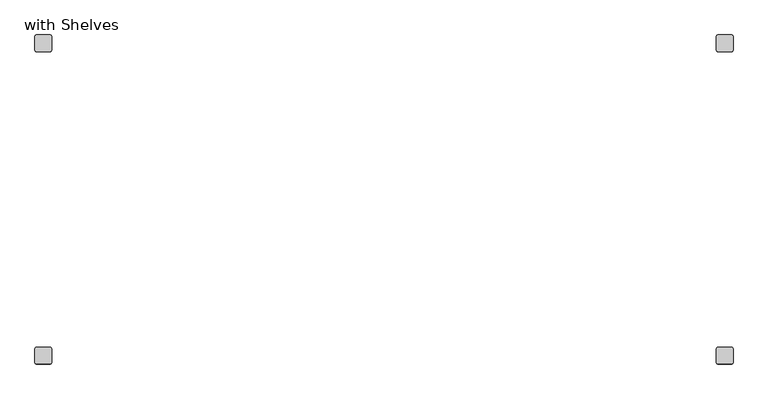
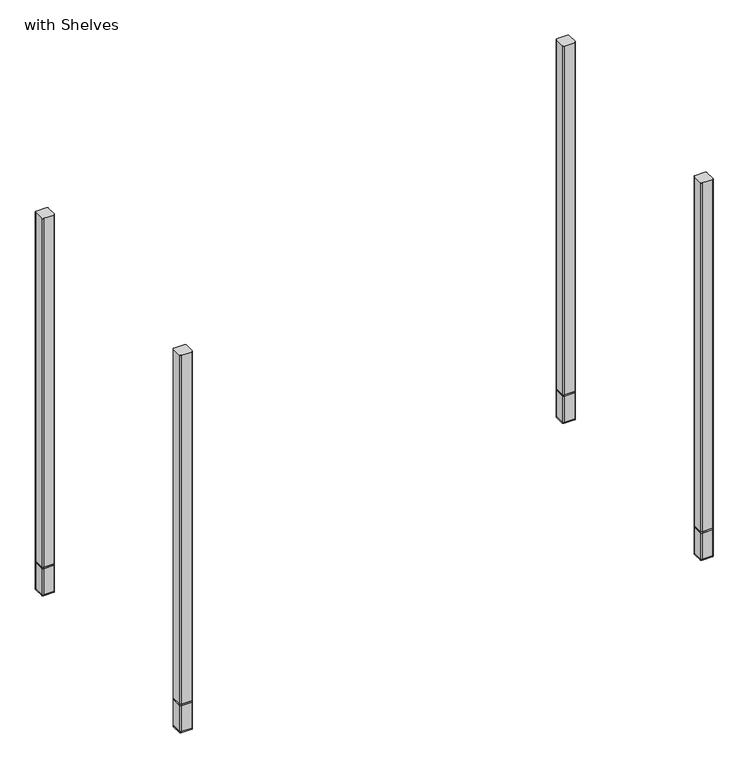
"""IFC4 building model written with IfcOpenShell, lengths in millimetres: furniture geometry, SmithSystem_AM_Storage_Education_Constellate_StandAlone_MidUnit : with Shelves."""

import ifcopenshell
import ifcopenshell.guid

model = None  # the IFC model being written
_history = None  # IfcOwnerHistory: only IFC2X3 demands one
_inside = {}  # id of a spatial element -> (the spatial element, [elements in it])
_under = {}  # id of a project, library or spatial element -> (it, [spatial elements below it])
_declared = {}  # id of a project -> (the project, [libraries it declares])
_typed = {}  # id of a type object -> (the type object, [elements of that type])
_made_of = {}  # id of a material, layer set ... -> (it, [elements and type objects made of it])


def new_model(schema):
    """Start an empty IFC model of exactly this schema.

    Asked for "IFC4X3", IfcOpenShell would pick the latest addendum, in which some entities
    have other attributes; the version numbers below select the first issue.
    IFC2X3 requires an IfcOwnerHistory on every rooted entity: one is made here for all.
    """
    global model, _history
    if schema == "IFC4X3":
        model = ifcopenshell.file(schema_version=(4, 3, 0, 0))
    else:
        model = ifcopenshell.file(schema=schema)
    _inside.clear()
    _under.clear()
    _declared.clear()
    _typed.clear()
    _made_of.clear()
    _history = None
    if model.schema == "IFC2X3":
        org = make("IfcOrganization", Name="unknown")
        user = make(
            "IfcPersonAndOrganization",
            ThePerson=make("IfcPerson", FamilyName="unknown"),
            TheOrganization=org,
        )
        app = make(
            "IfcApplication",
            ApplicationDeveloper=org,
            Version="unknown",
            ApplicationFullName="unknown",
            ApplicationIdentifier="unknown",
        )
        _history = make(
            "IfcOwnerHistory",
            OwningUser=user,
            OwningApplication=app,
            ChangeAction="ADDED",
            CreationDate=0,
        )
    return model


def make(cls, **values):
    """One entity of the class cls with the attributes given. An attribute that is None is left unset."""
    return model.create_entity(
        cls, **{name: value for name, value in values.items() if value is not None}
    )


def rooted(cls, **values):
    """An entity with a GlobalId (a new one), such as an element, a storey or a relation."""
    return make(cls, GlobalId=ifcopenshell.guid.new(), OwnerHistory=_history, **values)


def si_unit(unit_type, name, prefix=None):
    """IfcSIUnit, for example si_unit("LENGTHUNIT", "METRE", prefix="MILLI")."""
    return make("IfcSIUnit", UnitType=unit_type, Prefix=prefix, Name=name)


def assignment(units):
    """IfcUnitAssignment: the units of a project."""
    return None if units is None else make("IfcUnitAssignment", Units=units)


def point(xyz):
    """IfcCartesianPoint."""
    return None if xyz is None else make("IfcCartesianPoint", Coordinates=xyz)


def direction(xyz):
    """IfcDirection."""
    return None if xyz is None else make("IfcDirection", DirectionRatios=xyz)


def frame(location, z_axis=None, x_axis=None):
    """IfcAxis2Placement3D, a coordinate frame: its origin and axes. An axis left out is left unset."""
    return make(
        "IfcAxis2Placement3D",
        Location=point(location),
        Axis=direction(z_axis),
        RefDirection=direction(x_axis),
    )


def frame_2d(location, x_axis=None):
    """IfcAxis2Placement2D, a coordinate frame in the plane: its origin and x axis."""
    return make(
        "IfcAxis2Placement2D", Location=point(location), RefDirection=direction(x_axis)
    )


def origin():
    """The frame at (0, 0, 0) with its axes left unset."""
    return frame((0.0, 0.0, 0.0))


def origin_with_axes():
    """The frame at (0, 0, 0) with the z axis (0, 0, 1) and the x axis (1, 0, 0) written out."""
    return frame((0.0, 0.0, 0.0), z_axis=(0.0, 0.0, 1.0), x_axis=(1.0, 0.0, 0.0))


def place(relative_to, where):
    """IfcLocalPlacement: puts the frame where relative to a parent placement (None: the world)."""
    return make(
        "IfcLocalPlacement", PlacementRelTo=relative_to, RelativePlacement=where
    )


def context(
    kind, dimensions, precision=None, world=None, true_north=None, identifier=None
):
    """IfcGeometricRepresentationContext, for example the 3D "Model" context."""
    return make(
        "IfcGeometricRepresentationContext",
        ContextIdentifier=identifier,
        ContextType=kind,
        CoordinateSpaceDimension=dimensions,
        Precision=precision,
        WorldCoordinateSystem=world,
        TrueNorth=true_north,
    )


def project(units=None, contexts=None):
    """IfcProject with its units and contexts."""
    return rooted(
        "IfcProject",
        Name="project",
        RepresentationContexts=contexts,
        UnitsInContext=assignment(units),
    )


def spatial(cls, under=None, at=None, **own):
    """A site, building, storey or space (cls), placed at a placement, below another one or the project."""
    s = rooted(cls, ObjectPlacement=at, **own)
    if under is not None:
        _under.setdefault(under.id(), (under, []))[1].append(s)
    return s


def polyline(points):
    """IfcPolyline through the points."""
    return make("IfcPolyline", Points=[point(p) for p in points])


def circle_curve(where, radius):
    """IfcCircle in the frame where."""
    return make("IfcCircle", Position=where, Radius=radius)


def trimmed(basis, trim1, trim2, sense, master):
    """IfcTrimmedCurve: the piece of a basis curve between two trims."""
    return make(
        "IfcTrimmedCurve",
        BasisCurve=basis,
        Trim1=trim1,
        Trim2=trim2,
        SenseAgreement=sense,
        MasterRepresentation=master,
    )


def segment(curve, same_sense, transition):
    """IfcCompositeCurveSegment."""
    return make(
        "IfcCompositeCurveSegment",
        Transition=transition,
        SameSense=same_sense,
        ParentCurve=curve,
    )


def composite_curve(segments, self_intersect=None):
    """IfcCompositeCurve: segments joined end to end."""
    return make("IfcCompositeCurve", Segments=segments, SelfIntersect=self_intersect)


def outline(outer, holes=None, kind="AREA"):
    """IfcArbitraryClosedProfileDef: a profile drawn as a closed curve; with holes, ...WithVoids."""
    if holes is None:
        return make("IfcArbitraryClosedProfileDef", ProfileType=kind, OuterCurve=outer)
    return make(
        "IfcArbitraryProfileDefWithVoids",
        ProfileType=kind,
        OuterCurve=outer,
        InnerCurves=holes,
    )


def extrude(swept, where, along, depth):
    """IfcExtrudedAreaSolid: the profile swept, set in the frame where, extruded along a direction by depth."""
    return make(
        "IfcExtrudedAreaSolid",
        SweptArea=swept,
        Position=where,
        ExtrudedDirection=direction(along),
        Depth=depth,
    )


def shape(context_of_items, identifier, shape_type, items):
    """IfcShapeRepresentation: the items that make up one representation, for example the "Body"."""
    return make(
        "IfcShapeRepresentation",
        ContextOfItems=context_of_items,
        RepresentationIdentifier=identifier,
        RepresentationType=shape_type,
        Items=items,
    )


def source(mapping_origin, context_of_items, identifier, shape_type, items):
    """IfcRepresentationMap: a shape defined once, which mapped items show again and again."""
    return make(
        "IfcRepresentationMap",
        MappingOrigin=mapping_origin,
        MappedRepresentation=shape(context_of_items, identifier, shape_type, items),
    )


def transform(
    local_origin,
    x_axis=None,
    y_axis=None,
    z_axis=None,
    scale=None,
    scale2=None,
    scale3=None,
    uniform=True,
):
    """IfcCartesianTransformationOperator3D, or its non-uniform kind. x_axis, y_axis, z_axis: its Axis1, 2, 3."""
    if uniform:
        return make(
            "IfcCartesianTransformationOperator3D",
            Axis1=direction(x_axis),
            Axis2=direction(y_axis),
            LocalOrigin=point(local_origin),
            Scale=scale,
            Axis3=direction(z_axis),
        )
    return make(
        "IfcCartesianTransformationOperator3DnonUniform",
        Axis1=direction(x_axis),
        Axis2=direction(y_axis),
        LocalOrigin=point(local_origin),
        Scale=scale,
        Axis3=direction(z_axis),
        Scale2=scale2,
        Scale3=scale3,
    )


def mapped(mapping_source, mapping_target):
    """IfcMappedItem: shows the shape of a source again, moved by a transform."""
    return make(
        "IfcMappedItem", MappingSource=mapping_source, MappingTarget=mapping_target
    )


def made_of(thing, what):
    """Note that an element or type object is made of a material, layer set ...; save() writes the relation."""
    if what is not None:
        _made_of.setdefault(what.id(), (what, []))[1].append(thing)
    return thing


def element(
    cls,
    number,
    at=None,
    inside=None,
    cuts=None,
    type_object=None,
    material=None,
    context=None,
    identifier="Body",
    shape_type=None,
    held_by="IfcProductDefinitionShape",
    body=None,
    shapes=None,
    **own,
):
    """One element of the class cls, such as IfcWall. Its Tag is "e" and its number.

    at: its placement. inside: the storey or other place that contains it. cuts: it is an
    opening in that element (IfcRelVoidsElement). A single representation is given by context,
    identifier, shape_type and body (its items); several are given by shapes. held_by: the class
    of the entity that holds the representations. save() writes the other relations.
    """
    e = rooted(cls, Tag="e%d" % number, ObjectPlacement=at, **own)
    if body is not None:
        shapes = [shape(context, identifier, shape_type, body)]
    if shapes is not None:
        e.Representation = make(held_by, Representations=shapes)
    if inside is not None:
        _inside.setdefault(inside.id(), (inside, []))[1].append(e)
    if cuts is not None:
        rooted(
            "IfcRelVoidsElement", RelatingBuildingElement=cuts, RelatedOpeningElement=e
        )
    if type_object is not None:
        _typed.setdefault(type_object.id(), (type_object, []))[1].append(e)
    return made_of(e, material)


def aggregate(whole, parts):
    """IfcRelAggregates: a whole, such as a stair, and the parts it consists of."""
    return rooted("IfcRelAggregates", RelatingObject=whole, RelatedObjects=parts)


def save(model, path):
    """Write the relations noted so far, then the file.

    IfcRelAggregates (storeys below a building ...), IfcRelContainedInSpatialStructure (elements
    in a storey), IfcRelDefinesByType, IfcRelAssociatesMaterial and IfcRelDeclares: one each for
    every whole, place, type object, material and project.
    """
    for whole, parts in _under.values():
        aggregate(whole, parts)
    for where, things in _inside.values():
        rooted(
            "IfcRelContainedInSpatialStructure",
            RelatedElements=things,
            RelatingStructure=where,
        )
    for kind, things in _typed.values():
        rooted("IfcRelDefinesByType", RelatedObjects=things, RelatingType=kind)
    for what, things in _made_of.values():
        rooted("IfcRelAssociatesMaterial", RelatedObjects=things, RelatingMaterial=what)
    for by, libraries in _declared.values():
        rooted("IfcRelDeclares", RelatingContext=by, RelatedDefinitions=libraries)
    model.write(path)


def with_shelves_608da45c(model_context):
    return source(origin(), model_context, "Body", "SweptSolid", [
        extrude(outline(composite_curve([segment(polyline([(-528.32, -223.52), (-508.0, -223.52)]), True, "CONTINUOUS"), segment(trimmed(circle_curve(frame_2d((-508.0, -226.06)), 2.54), [point((-508.0, -223.52))], [point((-505.46, -226.06))], False, "CARTESIAN"), True, "CONTINUOUS"), segment(polyline([(-505.46, -226.06), (-505.46, -246.38)]), True, "CONTINUOUS"), segment(trimmed(circle_curve(frame_2d((-508.0, -246.38)), 2.54), [point((-505.46, -246.38))], [point((-508.0, -248.92))], False, "CARTESIAN"), True, "CONTINUOUS"), segment(polyline([(-508.0, -248.92), (-528.32, -248.92)]), True, "CONTINUOUS"), segment(trimmed(circle_curve(frame_2d((-528.32, -246.38)), 2.54), [point((-528.32, -248.92))], [point((-530.86, -246.38))], False, "CARTESIAN"), True, "CONTINUOUS"), segment(polyline([(-530.86, -246.38), (-530.86, -226.06)]), True, "CONTINUOUS"), segment(trimmed(circle_curve(frame_2d((-528.32, -226.06)), 2.54), [point((-530.86, -226.06))], [point((-528.32, -223.52))], False, "CARTESIAN"), True, "CONTINUOUS")], self_intersect=False)), frame((0.0, 0.0, 57.15), z_axis=(0.0, 0.0, 1.0), x_axis=(1.0, 0.0, 0.0)), (0.0, 0.0, 1.0), 2.54),
        extrude(outline(composite_curve([segment(polyline([(530.86, 248.92), (530.86, 228.6)]), True, "CONTINUOUS"), segment(trimmed(circle_curve(frame_2d((528.32, 228.6)), 2.54), [point((530.86, 228.6))], [point((528.32, 226.06))], False, "CARTESIAN"), True, "CONTINUOUS"), segment(polyline([(528.32, 226.06), (508.0, 226.06)]), True, "CONTINUOUS"), segment(trimmed(circle_curve(frame_2d((508.0, 228.6)), 2.54), [point((508.0, 226.06))], [point((505.46, 228.6))], False, "CARTESIAN"), True, "CONTINUOUS"), segment(polyline([(505.46, 228.6), (505.46, 248.92)]), True, "CONTINUOUS"), segment(trimmed(circle_curve(frame_2d((508.0, 248.92)), 2.54), [point((505.46, 248.92))], [point((508.0, 251.46))], False, "CARTESIAN"), True, "CONTINUOUS"), segment(polyline([(508.0, 251.46), (528.32, 251.46)]), True, "CONTINUOUS"), segment(trimmed(circle_curve(frame_2d((528.32, 248.92)), 2.54), [point((528.32, 251.46))], [point((530.86, 248.92))], False, "CARTESIAN"), True, "CONTINUOUS")], self_intersect=False)), frame((0.0, 0.0, 57.15), z_axis=(0.0, 0.0, 1.0), x_axis=(1.0, 0.0, 0.0)), (0.0, 0.0, 1.0), 2.54),
        extrude(outline(composite_curve([segment(trimmed(circle_curve(frame_2d((528.32, -226.06)), 2.54), [point((528.32, -223.52))], [point((530.86, -226.06))], False, "CARTESIAN"), True, "CONTINUOUS"), segment(polyline([(530.86, -226.06), (530.86, -246.38)]), True, "CONTINUOUS"), segment(trimmed(circle_curve(frame_2d((528.32, -246.38)), 2.54), [point((530.86, -246.38))], [point((528.32, -248.92))], False, "CARTESIAN"), True, "CONTINUOUS"), segment(polyline([(528.32, -248.92), (508.0, -248.92)]), True, "CONTINUOUS"), segment(trimmed(circle_curve(frame_2d((508.0, -246.38)), 2.54), [point((508.0, -248.92))], [point((505.46, -246.38))], False, "CARTESIAN"), True, "CONTINUOUS"), segment(polyline([(505.46, -246.38), (505.46, -226.06)]), True, "CONTINUOUS"), segment(trimmed(circle_curve(frame_2d((508.0, -226.06)), 2.54), [point((505.46, -226.06))], [point((508.0, -223.52))], False, "CARTESIAN"), True, "CONTINUOUS"), segment(polyline([(508.0, -223.52), (528.32, -223.52)]), True, "CONTINUOUS")], self_intersect=False)), frame((0.0, 0.0, 57.15), z_axis=(0.0, 0.0, 1.0), x_axis=(1.0, 0.0, 0.0)), (0.0, 0.0, 1.0), 2.54),
        extrude(outline(composite_curve([segment(trimmed(circle_curve(frame_2d((-528.32, 248.92)), 2.54), [point((-530.86, 248.92))], [point((-528.32, 251.46))], False, "CARTESIAN"), True, "CONTINUOUS"), segment(polyline([(-528.32, 251.46), (-508.0, 251.46)]), True, "CONTINUOUS"), segment(trimmed(circle_curve(frame_2d((-508.0, 248.92)), 2.54), [point((-508.0, 251.46))], [point((-505.46, 248.92))], False, "CARTESIAN"), True, "CONTINUOUS"), segment(polyline([(-505.46, 248.92), (-505.46, 228.6)]), True, "CONTINUOUS"), segment(trimmed(circle_curve(frame_2d((-508.0, 228.6)), 2.54), [point((-505.46, 228.6))], [point((-508.0, 226.06))], False, "CARTESIAN"), True, "CONTINUOUS"), segment(polyline([(-508.0, 226.06), (-528.32, 226.06)]), True, "CONTINUOUS"), segment(trimmed(circle_curve(frame_2d((-528.32, 228.6)), 2.54), [point((-528.32, 226.06))], [point((-530.86, 228.6))], False, "CARTESIAN"), True, "CONTINUOUS"), segment(polyline([(-530.86, 228.6), (-530.86, 248.92)]), True, "CONTINUOUS")], self_intersect=False)), frame((0.0, 0.0, 57.15), z_axis=(0.0, 0.0, 1.0), x_axis=(1.0, 0.0, 0.0)), (0.0, 0.0, 1.0), 2.54),
        extrude(outline(composite_curve([segment(polyline([(-528.32, -223.52), (-508.0, -223.52)]), True, "CONTINUOUS"), segment(trimmed(circle_curve(frame_2d((-508.0, -226.06)), 2.54), [point((-508.0, -223.52))], [point((-505.46, -226.06))], False, "CARTESIAN"), True, "CONTINUOUS"), segment(polyline([(-505.46, -226.06), (-505.46, -246.38)]), True, "CONTINUOUS"), segment(trimmed(circle_curve(frame_2d((-508.0, -246.38)), 2.54), [point((-505.46, -246.38))], [point((-508.0, -248.92))], False, "CARTESIAN"), True, "CONTINUOUS"), segment(polyline([(-508.0, -248.92), (-528.32, -248.92)]), True, "CONTINUOUS"), segment(trimmed(circle_curve(frame_2d((-528.32, -246.38)), 2.54), [point((-528.32, -248.92))], [point((-530.86, -246.38))], False, "CARTESIAN"), True, "CONTINUOUS"), segment(polyline([(-530.86, -246.38), (-530.86, -226.06)]), True, "CONTINUOUS"), segment(trimmed(circle_curve(frame_2d((-528.32, -226.06)), 2.54), [point((-530.86, -226.06))], [point((-528.32, -223.52))], False, "CARTESIAN"), True, "CONTINUOUS")], self_intersect=False)), frame((0.0, 0.0, 59.69), z_axis=(0.0, 0.0, 1.0), x_axis=(1.0, 0.0, 0.0)), (0.0, 0.0, 1.0), 734.06),
        extrude(outline(composite_curve([segment(polyline([(530.86, 248.92), (530.86, 228.6)]), True, "CONTINUOUS"), segment(trimmed(circle_curve(frame_2d((528.32, 228.6)), 2.54), [point((530.86, 228.6))], [point((528.32, 226.06))], False, "CARTESIAN"), True, "CONTINUOUS"), segment(polyline([(528.32, 226.06), (508.0, 226.06)]), True, "CONTINUOUS"), segment(trimmed(circle_curve(frame_2d((508.0, 228.6)), 2.54), [point((508.0, 226.06))], [point((505.46, 228.6))], False, "CARTESIAN"), True, "CONTINUOUS"), segment(polyline([(505.46, 228.6), (505.46, 248.92)]), True, "CONTINUOUS"), segment(trimmed(circle_curve(frame_2d((508.0, 248.92)), 2.54), [point((505.46, 248.92))], [point((508.0, 251.46))], False, "CARTESIAN"), True, "CONTINUOUS"), segment(polyline([(508.0, 251.46), (528.32, 251.46)]), True, "CONTINUOUS"), segment(trimmed(circle_curve(frame_2d((528.32, 248.92)), 2.54), [point((528.32, 251.46))], [point((530.86, 248.92))], False, "CARTESIAN"), True, "CONTINUOUS")], self_intersect=False)), frame((0.0, 0.0, 59.69), z_axis=(0.0, 0.0, 1.0), x_axis=(1.0, 0.0, 0.0)), (0.0, 0.0, 1.0), 734.06),
        extrude(outline(composite_curve([segment(trimmed(circle_curve(frame_2d((528.32, -226.06)), 2.54), [point((528.32, -223.52))], [point((530.86, -226.06))], False, "CARTESIAN"), True, "CONTINUOUS"), segment(polyline([(530.86, -226.06), (530.86, -246.38)]), True, "CONTINUOUS"), segment(trimmed(circle_curve(frame_2d((528.32, -246.38)), 2.54), [point((530.86, -246.38))], [point((528.32, -248.92))], False, "CARTESIAN"), True, "CONTINUOUS"), segment(polyline([(528.32, -248.92), (508.0, -248.92)]), True, "CONTINUOUS"), segment(trimmed(circle_curve(frame_2d((508.0, -246.38)), 2.54), [point((508.0, -248.92))], [point((505.46, -246.38))], False, "CARTESIAN"), True, "CONTINUOUS"), segment(polyline([(505.46, -246.38), (505.46, -226.06)]), True, "CONTINUOUS"), segment(trimmed(circle_curve(frame_2d((508.0, -226.06)), 2.54), [point((505.46, -226.06))], [point((508.0, -223.52))], False, "CARTESIAN"), True, "CONTINUOUS"), segment(polyline([(508.0, -223.52), (528.32, -223.52)]), True, "CONTINUOUS")], self_intersect=False)), frame((0.0, 0.0, 59.69), z_axis=(0.0, 0.0, 1.0), x_axis=(1.0, 0.0, 0.0)), (0.0, 0.0, 1.0), 734.06),
        extrude(outline(composite_curve([segment(trimmed(circle_curve(frame_2d((-528.32, 248.92)), 2.54), [point((-530.86, 248.92))], [point((-528.32, 251.46))], False, "CARTESIAN"), True, "CONTINUOUS"), segment(polyline([(-528.32, 251.46), (-508.0, 251.46)]), True, "CONTINUOUS"), segment(trimmed(circle_curve(frame_2d((-508.0, 248.92)), 2.54), [point((-508.0, 251.46))], [point((-505.46, 248.92))], False, "CARTESIAN"), True, "CONTINUOUS"), segment(polyline([(-505.46, 248.92), (-505.46, 228.6)]), True, "CONTINUOUS"), segment(trimmed(circle_curve(frame_2d((-508.0, 228.6)), 2.54), [point((-505.46, 228.6))], [point((-508.0, 226.06))], False, "CARTESIAN"), True, "CONTINUOUS"), segment(polyline([(-508.0, 226.06), (-528.32, 226.06)]), True, "CONTINUOUS"), segment(trimmed(circle_curve(frame_2d((-528.32, 228.6)), 2.54), [point((-528.32, 226.06))], [point((-530.86, 228.6))], False, "CARTESIAN"), True, "CONTINUOUS"), segment(polyline([(-530.86, 228.6), (-530.86, 248.92)]), True, "CONTINUOUS")], self_intersect=False)), frame((0.0, 0.0, 59.69), z_axis=(0.0, 0.0, 1.0), x_axis=(1.0, 0.0, 0.0)), (0.0, 0.0, 1.0), 734.06),
        extrude(outline(composite_curve([segment(polyline([(-528.32, -223.52), (-508.0, -223.52)]), True, "CONTINUOUS"), segment(trimmed(circle_curve(frame_2d((-508.0, -226.06)), 2.54), [point((-508.0, -223.52))], [point((-505.46, -226.06))], False, "CARTESIAN"), True, "CONTINUOUS"), segment(polyline([(-505.46, -226.06), (-505.46, -246.38)]), True, "CONTINUOUS"), segment(trimmed(circle_curve(frame_2d((-508.0, -246.38)), 2.54), [point((-505.46, -246.38))], [point((-508.0, -248.92))], False, "CARTESIAN"), True, "CONTINUOUS"), segment(polyline([(-508.0, -248.92), (-528.32, -248.92)]), True, "CONTINUOUS"), segment(trimmed(circle_curve(frame_2d((-528.32, -246.38)), 2.54), [point((-528.32, -248.92))], [point((-530.86, -246.38))], False, "CARTESIAN"), True, "CONTINUOUS"), segment(polyline([(-530.86, -246.38), (-530.86, -226.06)]), True, "CONTINUOUS"), segment(trimmed(circle_curve(frame_2d((-528.32, -226.06)), 2.54), [point((-530.86, -226.06))], [point((-528.32, -223.52))], False, "CARTESIAN"), True, "CONTINUOUS")], self_intersect=False)), frame((0.0, 0.0, 2.54), z_axis=(0.0, 0.0, 1.0), x_axis=(1.0, 0.0, 0.0)), (0.0, 0.0, 1.0), 54.61),
        extrude(outline(composite_curve([segment(polyline([(530.86, 248.92), (530.86, 228.6)]), True, "CONTINUOUS"), segment(trimmed(circle_curve(frame_2d((528.32, 228.6)), 2.54), [point((530.86, 228.6))], [point((528.32, 226.06))], False, "CARTESIAN"), True, "CONTINUOUS"), segment(polyline([(528.32, 226.06), (508.0, 226.06)]), True, "CONTINUOUS"), segment(trimmed(circle_curve(frame_2d((508.0, 228.6)), 2.54), [point((508.0, 226.06))], [point((505.46, 228.6))], False, "CARTESIAN"), True, "CONTINUOUS"), segment(polyline([(505.46, 228.6), (505.46, 248.92)]), True, "CONTINUOUS"), segment(trimmed(circle_curve(frame_2d((508.0, 248.92)), 2.54), [point((505.46, 248.92))], [point((508.0, 251.46))], False, "CARTESIAN"), True, "CONTINUOUS"), segment(polyline([(508.0, 251.46), (528.32, 251.46)]), True, "CONTINUOUS"), segment(trimmed(circle_curve(frame_2d((528.32, 248.92)), 2.54), [point((528.32, 251.46))], [point((530.86, 248.92))], False, "CARTESIAN"), True, "CONTINUOUS")], self_intersect=False)), frame((0.0, 0.0, 2.54), z_axis=(0.0, 0.0, 1.0), x_axis=(1.0, 0.0, 0.0)), (0.0, 0.0, 1.0), 54.61),
        extrude(outline(composite_curve([segment(trimmed(circle_curve(frame_2d((528.32, -226.06)), 2.54), [point((528.32, -223.52))], [point((530.86, -226.06))], False, "CARTESIAN"), True, "CONTINUOUS"), segment(polyline([(530.86, -226.06), (530.86, -246.38)]), True, "CONTINUOUS"), segment(trimmed(circle_curve(frame_2d((528.32, -246.38)), 2.54), [point((530.86, -246.38))], [point((528.32, -248.92))], False, "CARTESIAN"), True, "CONTINUOUS"), segment(polyline([(528.32, -248.92), (508.0, -248.92)]), True, "CONTINUOUS"), segment(trimmed(circle_curve(frame_2d((508.0, -246.38)), 2.54), [point((508.0, -248.92))], [point((505.46, -246.38))], False, "CARTESIAN"), True, "CONTINUOUS"), segment(polyline([(505.46, -246.38), (505.46, -226.06)]), True, "CONTINUOUS"), segment(trimmed(circle_curve(frame_2d((508.0, -226.06)), 2.54), [point((505.46, -226.06))], [point((508.0, -223.52))], False, "CARTESIAN"), True, "CONTINUOUS"), segment(polyline([(508.0, -223.52), (528.32, -223.52)]), True, "CONTINUOUS")], self_intersect=False)), frame((0.0, 0.0, 2.54), z_axis=(0.0, 0.0, 1.0), x_axis=(1.0, 0.0, 0.0)), (0.0, 0.0, 1.0), 54.61),
        extrude(outline(composite_curve([segment(trimmed(circle_curve(frame_2d((-528.32, 248.92)), 2.54), [point((-530.86, 248.92))], [point((-528.32, 251.46))], False, "CARTESIAN"), True, "CONTINUOUS"), segment(polyline([(-528.32, 251.46), (-508.0, 251.46)]), True, "CONTINUOUS"), segment(trimmed(circle_curve(frame_2d((-508.0, 248.92)), 2.54), [point((-508.0, 251.46))], [point((-505.46, 248.92))], False, "CARTESIAN"), True, "CONTINUOUS"), segment(polyline([(-505.46, 248.92), (-505.46, 228.6)]), True, "CONTINUOUS"), segment(trimmed(circle_curve(frame_2d((-508.0, 228.6)), 2.54), [point((-505.46, 228.6))], [point((-508.0, 226.06))], False, "CARTESIAN"), True, "CONTINUOUS"), segment(polyline([(-508.0, 226.06), (-528.32, 226.06)]), True, "CONTINUOUS"), segment(trimmed(circle_curve(frame_2d((-528.32, 228.6)), 2.54), [point((-528.32, 226.06))], [point((-530.86, 228.6))], False, "CARTESIAN"), True, "CONTINUOUS"), segment(polyline([(-530.86, 228.6), (-530.86, 248.92)]), True, "CONTINUOUS")], self_intersect=False)), frame((0.0, 0.0, 2.54), z_axis=(0.0, 0.0, 1.0), x_axis=(1.0, 0.0, 0.0)), (0.0, 0.0, 1.0), 54.61),
        extrude(outline(composite_curve([segment(trimmed(circle_curve(frame_2d((-508.0, -226.06)), 2.54), [point((-508.0, -223.52))], [point((-505.46, -226.06))], False, "CARTESIAN"), True, "CONTINUOUS"), segment(polyline([(-505.46, -226.06), (-505.46, -246.38)]), True, "CONTINUOUS"), segment(trimmed(circle_curve(frame_2d((-508.0, -246.38)), 2.54), [point((-505.46, -246.38))], [point((-508.0, -248.92))], False, "CARTESIAN"), True, "CONTINUOUS"), segment(polyline([(-508.0, -248.92), (-528.32, -248.92)]), True, "CONTINUOUS"), segment(trimmed(circle_curve(frame_2d((-528.32, -246.38)), 2.54), [point((-528.32, -248.92))], [point((-530.86, -246.38))], False, "CARTESIAN"), True, "CONTINUOUS"), segment(polyline([(-530.86, -246.38), (-530.86, -226.06)]), True, "CONTINUOUS"), segment(trimmed(circle_curve(frame_2d((-528.32, -226.06)), 2.54), [point((-530.86, -226.06))], [point((-528.32, -223.52))], False, "CARTESIAN"), True, "CONTINUOUS"), segment(polyline([(-528.32, -223.52), (-508.0, -223.52)]), True, "CONTINUOUS")], self_intersect=False)), origin_with_axes(), (0.0, 0.0, 1.0), 2.54),
        extrude(outline(composite_curve([segment(polyline([(508.0, -223.52), (528.32, -223.52)]), True, "CONTINUOUS"), segment(trimmed(circle_curve(frame_2d((528.32, -226.06)), 2.54), [point((528.32, -223.52))], [point((530.86, -226.06))], False, "CARTESIAN"), True, "CONTINUOUS"), segment(polyline([(530.86, -226.06), (530.86, -246.38)]), True, "CONTINUOUS"), segment(trimmed(circle_curve(frame_2d((528.32, -246.38)), 2.54), [point((530.86, -246.38))], [point((528.32, -248.92))], False, "CARTESIAN"), True, "CONTINUOUS"), segment(polyline([(528.32, -248.92), (508.0, -248.92)]), True, "CONTINUOUS"), segment(trimmed(circle_curve(frame_2d((508.0, -246.38)), 2.54), [point((508.0, -248.92))], [point((505.46, -246.38))], False, "CARTESIAN"), True, "CONTINUOUS"), segment(polyline([(505.46, -246.38), (505.46, -226.06)]), True, "CONTINUOUS"), segment(trimmed(circle_curve(frame_2d((508.0, -226.06)), 2.54), [point((505.46, -226.06))], [point((508.0, -223.52))], False, "CARTESIAN"), True, "CONTINUOUS")], self_intersect=False)), origin_with_axes(), (0.0, 0.0, 1.0), 2.54),
        extrude(outline(composite_curve([segment(trimmed(circle_curve(frame_2d((-508.0, 248.92)), 2.54), [point((-508.0, 251.46))], [point((-505.46, 248.92))], False, "CARTESIAN"), True, "CONTINUOUS"), segment(polyline([(-505.46, 248.92), (-505.46, 228.6)]), True, "CONTINUOUS"), segment(trimmed(circle_curve(frame_2d((-508.0, 228.6)), 2.54), [point((-505.46, 228.6))], [point((-508.0, 226.06))], False, "CARTESIAN"), True, "CONTINUOUS"), segment(polyline([(-508.0, 226.06), (-528.32, 226.06)]), True, "CONTINUOUS"), segment(trimmed(circle_curve(frame_2d((-528.32, 228.6)), 2.54), [point((-528.32, 226.06))], [point((-530.86, 228.6))], False, "CARTESIAN"), True, "CONTINUOUS"), segment(polyline([(-530.86, 228.6), (-530.86, 248.92)]), True, "CONTINUOUS"), segment(trimmed(circle_curve(frame_2d((-528.32, 248.92)), 2.54), [point((-530.86, 248.92))], [point((-528.32, 251.46))], False, "CARTESIAN"), True, "CONTINUOUS"), segment(polyline([(-528.32, 251.46), (-508.0, 251.46)]), True, "CONTINUOUS")], self_intersect=False)), origin_with_axes(), (0.0, 0.0, 1.0), 2.54),
        extrude(outline(composite_curve([segment(polyline([(508.0, 251.46), (528.32, 251.46)]), True, "CONTINUOUS"), segment(trimmed(circle_curve(frame_2d((528.32, 248.92)), 2.54), [point((528.32, 251.46))], [point((530.86, 248.92))], False, "CARTESIAN"), True, "CONTINUOUS"), segment(polyline([(530.86, 248.92), (530.86, 228.6)]), True, "CONTINUOUS"), segment(trimmed(circle_curve(frame_2d((528.32, 228.6)), 2.54), [point((530.86, 228.6))], [point((528.32, 226.06))], False, "CARTESIAN"), True, "CONTINUOUS"), segment(polyline([(528.32, 226.06), (508.0, 226.06)]), True, "CONTINUOUS"), segment(trimmed(circle_curve(frame_2d((508.0, 228.6)), 2.54), [point((508.0, 226.06))], [point((505.46, 228.6))], False, "CARTESIAN"), True, "CONTINUOUS"), segment(polyline([(505.46, 228.6), (505.46, 248.92)]), True, "CONTINUOUS"), segment(trimmed(circle_curve(frame_2d((508.0, 248.92)), 2.54), [point((505.46, 248.92))], [point((508.0, 251.46))], False, "CARTESIAN"), True, "CONTINUOUS")], self_intersect=False)), origin_with_axes(), (0.0, 0.0, 1.0), 2.54),
    ])


if __name__ == "__main__":
    model = new_model("IFC4")
    model_context = context("Model", 3, world=origin())
    ifc_project = project(units=[si_unit("LENGTHUNIT", "METRE", prefix="MILLI")], contexts=[model_context])
    site = spatial("IfcSite", under=ifc_project)
    building = spatial("IfcBuilding", under=site)
    placement = place(None, origin())
    with_shelves_shape = with_shelves_608da45c(model_context)
    element("IfcFurniture", 1, ObjectType="SmithSystem_AM_Storage_Education_Constellate_StandAlone_MidUnit : with Shelves", at=placement, inside=building, context=model_context, shape_type="MappedRepresentation", body=[
        mapped(with_shelves_shape, transform((0.0, 0.0, 0.0), x_axis=(1.0, 0.0, 0.0), y_axis=(0.0, 1.0, 0.0), z_axis=(0.0, 0.0, 1.0))),
    ])
    save(model, "model.ifc")
